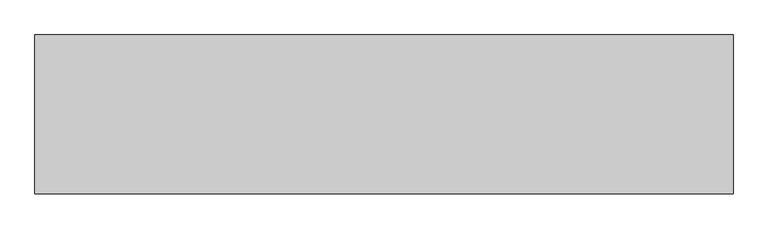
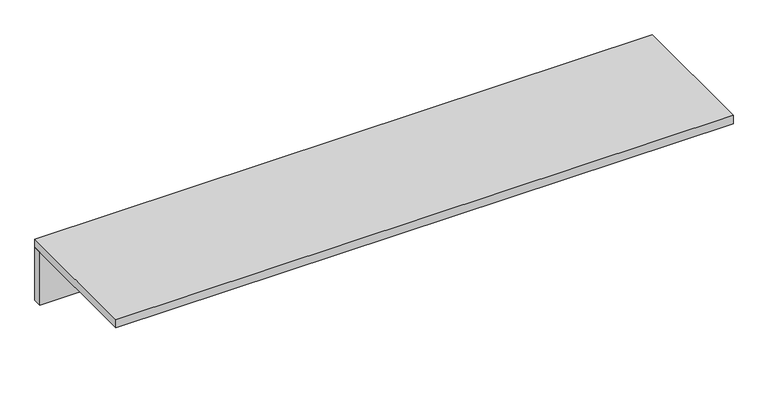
"""IFC4 building model written with IfcOpenShell, lengths in millimetres: furniture geometry."""

from ifc_helpers import new_model, si_unit, frame, origin, place, context, project, spatial, polyline, outline, extrude, source, transform, mapped, element, save


def furniture_e94af63b(model_context):
    return source(origin(), model_context, "Body", "SweptSolid", [
        extrude(outline(polyline([(914.4, 207.9625), (914.4, 182.5625), (-914.4, 182.5625), (-914.4, 207.9625), (914.4, 207.9625)])), frame((0.0, 0.0, 889.0), z_axis=(0.0, 0.0, 1.0), x_axis=(1.0, 0.0, 0.0)), (0.0, 0.0, 1.0), 165.1),
        extrude(outline(polyline([(914.4, -207.9625), (-914.4, -207.9625), (-914.4, 207.9625), (914.4, 207.9625), (914.4, -207.9625)])), frame((0.0, 0.0, 1054.1), z_axis=(0.0, 0.0, 1.0), x_axis=(1.0, 0.0, 0.0)), (0.0, 0.0, 1.0), 25.4),
    ])


if __name__ == "__main__":
    model = new_model("IFC4")
    model_context = context("Model", 3, world=origin())
    ifc_project = project(units=[si_unit("LENGTHUNIT", "METRE", prefix="MILLI")], contexts=[model_context])
    site = spatial("IfcSite", under=ifc_project)
    building = spatial("IfcBuilding", under=site)
    placement = place(None, origin())
    furniture_shape = furniture_e94af63b(model_context)
    element("IfcFurniture", 1, ObjectType="HermanMiller_Ethospace_E2830_SqEdgeCounterTop : 7-1/2\"H x 16-3/8\"D x 72\"W", at=placement, inside=building, context=model_context, shape_type="MappedRepresentation", body=[
        mapped(furniture_shape, transform((0.0, 0.0, 0.0), x_axis=(1.0, 0.0, 0.0), y_axis=(0.0, 1.0, 0.0), z_axis=(0.0, 0.0, 1.0))),
    ])
    save(model, "model.ifc")
